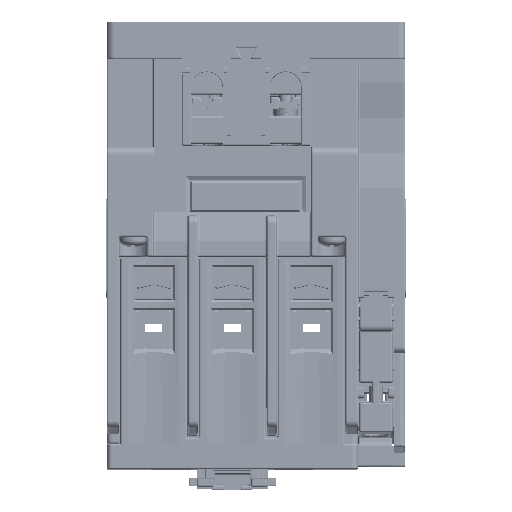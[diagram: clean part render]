
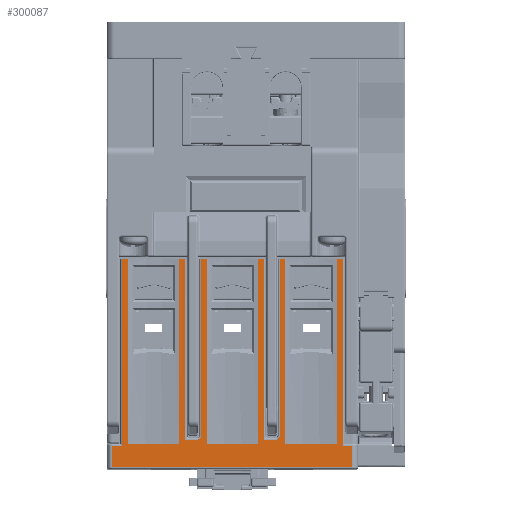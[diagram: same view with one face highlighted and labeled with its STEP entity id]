
A CAD part, top view. The second image highlights one B-rep face of the part: STEP entity #300087.
In plain terms, the highlighted planar face has unit normal (0, 0, 1).
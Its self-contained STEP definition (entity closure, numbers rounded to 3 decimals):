
#5550=DIRECTION('',(0.,-1.,0.));
#5551=VECTOR('',#5550,45.);
#5552=CARTESIAN_POINT('',(44.,58.7,-7.5));
#5553=LINE('',#5552,#5551);
#40371=CARTESIAN_POINT('',(23.,13.7,-7.5));
#40372=DIRECTION('',(0.,0.,1.));
#40373=DIRECTION('',(0.,-1.,0.));
#40374=AXIS2_PLACEMENT_3D('',#40371,#40372,#40373);
#40376=DIRECTION('',(1.,0.,0.));
#40377=VECTOR('',#40376,1.5);
#40378=CARTESIAN_POINT('',(24.,58.7,-7.5));
#40379=LINE('',#40378,#40377);
#40380=DIRECTION('',(0.,1.,0.));
#40381=VECTOR('',#40380,47.);
#40382=CARTESIAN_POINT('',(25.5,11.7,-7.5));
#40383=LINE('',#40382,#40381);
#40384=DIRECTION('',(-1.,0.,0.));
#40385=VECTOR('',#40384,13.);
#40386=CARTESIAN_POINT('',(38.5,11.7,-7.5));
#40387=LINE('',#40386,#40385);
#40388=DIRECTION('',(0.,1.,0.));
#40389=VECTOR('',#40388,47.);
#40390=CARTESIAN_POINT('',(38.5,11.7,-7.5));
#40391=LINE('',#40390,#40389);
#40392=DIRECTION('',(1.,0.,0.));
#40393=VECTOR('',#40392,1.5);
#40394=CARTESIAN_POINT('',(38.5,58.7,-7.5));
#40395=LINE('',#40394,#40393);
#40396=DIRECTION('',(-1.,0.,0.));
#40397=VECTOR('',#40396,3.);
#40398=CARTESIAN_POINT('',(43.,12.7,-7.5));
#40399=LINE('',#40398,#40397);
#40400=CARTESIAN_POINT('',(43.,13.7,-7.5));
#40401=DIRECTION('',(0.,0.,1.));
#40402=DIRECTION('',(0.,-1.,0.));
#40403=AXIS2_PLACEMENT_3D('',#40400,#40401,#40402);
#40405=DIRECTION('',(1.,0.,0.));
#40406=VECTOR('',#40405,1.5);
#40407=CARTESIAN_POINT('',(44.,58.7,-7.5));
#40408=LINE('',#40407,#40406);
#40409=DIRECTION('',(0.,1.,0.));
#40410=VECTOR('',#40409,47.);
#40411=CARTESIAN_POINT('',(45.5,11.7,-7.5));
#40412=LINE('',#40411,#40410);
#40413=DIRECTION('',(-1.,0.,0.));
#40414=VECTOR('',#40413,13.);
#40415=CARTESIAN_POINT('',(58.5,11.7,-7.5));
#40416=LINE('',#40415,#40414);
#40417=DIRECTION('',(0.,1.,0.));
#40418=VECTOR('',#40417,47.);
#40419=CARTESIAN_POINT('',(58.5,11.7,-7.5));
#40420=LINE('',#40419,#40418);
#40421=DIRECTION('',(1.,0.,0.));
#40422=VECTOR('',#40421,1.5);
#40423=CARTESIAN_POINT('',(58.5,58.7,-7.5));
#40424=LINE('',#40423,#40422);
#40425=DIRECTION('',(-1.,0.,0.));
#40426=VECTOR('',#40425,2.5);
#40427=CARTESIAN_POINT('',(62.5,11.2,-7.5));
#40428=LINE('',#40427,#40426);
#40429=DIRECTION('',(0.,1.,0.));
#40430=VECTOR('',#40429,5.5);
#40431=CARTESIAN_POINT('',(62.5,5.7,-7.5));
#40432=LINE('',#40431,#40430);
#40433=DIRECTION('',(1.,0.,0.));
#40434=VECTOR('',#40433,61.);
#40435=CARTESIAN_POINT('',(1.5,5.7,-7.5));
#40436=LINE('',#40435,#40434);
#40437=DIRECTION('',(0.,-1.,0.));
#40438=VECTOR('',#40437,5.5);
#40439=CARTESIAN_POINT('',(1.5,11.2,-7.5));
#40440=LINE('',#40439,#40438);
#40441=DIRECTION('',(-1.,0.,0.));
#40442=VECTOR('',#40441,2.5);
#40443=CARTESIAN_POINT('',(4.,11.2,-7.5));
#40444=LINE('',#40443,#40442);
#40445=DIRECTION('',(1.,0.,0.));
#40446=VECTOR('',#40445,1.5);
#40447=CARTESIAN_POINT('',(4.,58.7,-7.5));
#40448=LINE('',#40447,#40446);
#40449=DIRECTION('',(0.,1.,0.));
#40450=VECTOR('',#40449,47.);
#40451=CARTESIAN_POINT('',(5.5,11.7,-7.5));
#40452=LINE('',#40451,#40450);
#40453=DIRECTION('',(-1.,0.,0.));
#40454=VECTOR('',#40453,13.);
#40455=CARTESIAN_POINT('',(18.5,11.7,-7.5));
#40456=LINE('',#40455,#40454);
#40457=DIRECTION('',(0.,1.,0.));
#40458=VECTOR('',#40457,47.);
#40459=CARTESIAN_POINT('',(18.5,11.7,-7.5));
#40460=LINE('',#40459,#40458);
#40461=DIRECTION('',(1.,0.,0.));
#40462=VECTOR('',#40461,1.5);
#40463=CARTESIAN_POINT('',(18.5,58.7,-7.5));
#40464=LINE('',#40463,#40462);
#40465=DIRECTION('',(-1.,0.,0.));
#40466=VECTOR('',#40465,3.);
#40467=CARTESIAN_POINT('',(23.,12.7,-7.5));
#40468=LINE('',#40467,#40466);
#40484=DIRECTION('',(0.,-1.,0.));
#40485=VECTOR('',#40484,45.);
#40486=CARTESIAN_POINT('',(24.,58.7,-7.5));
#40487=LINE('',#40486,#40485);
#40623=DIRECTION('',(0.,1.,0.));
#40624=VECTOR('',#40623,46.);
#40625=CARTESIAN_POINT('',(20.,12.7,-7.5));
#40626=LINE('',#40625,#40624);
#77146=DIRECTION('',(0.,1.,0.));
#77147=VECTOR('',#77146,47.5);
#77148=CARTESIAN_POINT('',(60.,11.2,-7.5));
#77149=LINE('',#77148,#77147);
#79803=DIRECTION('',(0.,1.,0.));
#79804=VECTOR('',#79803,46.);
#79805=CARTESIAN_POINT('',(40.,12.7,-7.5));
#79806=LINE('',#79805,#79804);
#90277=DIRECTION('',(0.,-1.,0.));
#90278=VECTOR('',#90277,47.5);
#90279=CARTESIAN_POINT('',(4.,58.7,-7.5));
#90280=LINE('',#90279,#90278);
#208292=CARTESIAN_POINT('',(58.5,11.7,-7.5));
#208293=CARTESIAN_POINT('',(45.5,11.7,-7.5));
#208294=VERTEX_POINT('',#208292);
#208295=VERTEX_POINT('',#208293);
#208296=CARTESIAN_POINT('',(38.5,11.7,-7.5));
#208297=CARTESIAN_POINT('',(25.5,11.7,-7.5));
#208298=VERTEX_POINT('',#208296);
#208299=VERTEX_POINT('',#208297);
#208300=CARTESIAN_POINT('',(18.5,11.7,-7.5));
#208301=CARTESIAN_POINT('',(5.5,11.7,-7.5));
#208302=VERTEX_POINT('',#208300);
#208303=VERTEX_POINT('',#208301);
#208644=CARTESIAN_POINT('',(4.,58.7,-7.5));
#208645=CARTESIAN_POINT('',(5.5,58.7,-7.5));
#208646=VERTEX_POINT('',#208644);
#208647=VERTEX_POINT('',#208645);
#208648=CARTESIAN_POINT('',(18.5,58.7,-7.5));
#208649=CARTESIAN_POINT('',(20.,58.7,-7.5));
#208650=VERTEX_POINT('',#208648);
#208651=VERTEX_POINT('',#208649);
#208652=CARTESIAN_POINT('',(24.,58.7,-7.5));
#208653=CARTESIAN_POINT('',(25.5,58.7,-7.5));
#208654=VERTEX_POINT('',#208652);
#208655=VERTEX_POINT('',#208653);
#208656=CARTESIAN_POINT('',(38.5,58.7,-7.5));
#208657=CARTESIAN_POINT('',(40.,58.7,-7.5));
#208658=VERTEX_POINT('',#208656);
#208659=VERTEX_POINT('',#208657);
#208660=CARTESIAN_POINT('',(44.,58.7,-7.5));
#208661=CARTESIAN_POINT('',(45.5,58.7,-7.5));
#208662=VERTEX_POINT('',#208660);
#208663=VERTEX_POINT('',#208661);
#208664=CARTESIAN_POINT('',(58.5,58.7,-7.5));
#208665=CARTESIAN_POINT('',(60.,58.7,-7.5));
#208666=VERTEX_POINT('',#208664);
#208667=VERTEX_POINT('',#208665);
#209024=CARTESIAN_POINT('',(1.5,5.7,-7.5));
#209026=VERTEX_POINT('',#209024);
#209038=CARTESIAN_POINT('',(62.5,5.7,-7.5));
#209039=VERTEX_POINT('',#209038);
#209308=CARTESIAN_POINT('',(62.5,11.2,-7.5));
#209309=CARTESIAN_POINT('',(60.,11.2,-7.5));
#209310=VERTEX_POINT('',#209308);
#209311=VERTEX_POINT('',#209309);
#209314=CARTESIAN_POINT('',(1.5,11.2,-7.5));
#209316=VERTEX_POINT('',#209314);
#209318=CARTESIAN_POINT('',(4.,11.2,-7.5));
#209319=VERTEX_POINT('',#209318);
#209682=CARTESIAN_POINT('',(43.,12.7,-7.5));
#209683=CARTESIAN_POINT('',(40.,12.7,-7.5));
#209684=VERTEX_POINT('',#209682);
#209685=VERTEX_POINT('',#209683);
#209686=CARTESIAN_POINT('',(44.,13.7,-7.5));
#209687=VERTEX_POINT('',#209686);
#209707=CARTESIAN_POINT('',(23.,12.7,-7.5));
#209708=CARTESIAN_POINT('',(20.,12.7,-7.5));
#209709=VERTEX_POINT('',#209707);
#209710=VERTEX_POINT('',#209708);
#209717=CARTESIAN_POINT('',(24.,13.7,-7.5));
#209718=VERTEX_POINT('',#209717);
#300028=CARTESIAN_POINT('',(32.,59.2,-7.5));
#300029=DIRECTION('',(0.,0.,1.));
#300030=DIRECTION('',(-1.,0.,0.));
#300031=AXIS2_PLACEMENT_3D('',#300028,#300029,#300030);
#300032=PLANE('',#300031);
#300034=ORIENTED_EDGE('',*,*,#300033,.T.);
#300036=ORIENTED_EDGE('',*,*,#300035,.F.);
#300038=ORIENTED_EDGE('',*,*,#300037,.T.);
#300040=ORIENTED_EDGE('',*,*,#300039,.F.);
#300042=ORIENTED_EDGE('',*,*,#300041,.F.);
#300044=ORIENTED_EDGE('',*,*,#300043,.T.);
#300046=ORIENTED_EDGE('',*,*,#300045,.T.);
#300048=ORIENTED_EDGE('',*,*,#300047,.F.);
#300050=ORIENTED_EDGE('',*,*,#300049,.F.);
#300051=ORIENTED_EDGE('',*,*,#233811,.T.);
#300052=ORIENTED_EDGE('',*,*,#233840,.F.);
#300053=ORIENTED_EDGE('',*,*,#233875,.T.);
#300055=ORIENTED_EDGE('',*,*,#300054,.F.);
#300057=ORIENTED_EDGE('',*,*,#300056,.F.);
#300059=ORIENTED_EDGE('',*,*,#300058,.T.);
#300060=ORIENTED_EDGE('',*,*,#233871,.T.);
#300062=ORIENTED_EDGE('',*,*,#300061,.F.);
#300064=ORIENTED_EDGE('',*,*,#300063,.F.);
#300066=ORIENTED_EDGE('',*,*,#300065,.F.);
#300068=ORIENTED_EDGE('',*,*,#300067,.F.);
#300070=ORIENTED_EDGE('',*,*,#300069,.F.);
#300072=ORIENTED_EDGE('',*,*,#300071,.F.);
#300074=ORIENTED_EDGE('',*,*,#300073,.F.);
#300075=ORIENTED_EDGE('',*,*,#299610,.T.);
#300076=ORIENTED_EDGE('',*,*,#299995,.F.);
#300078=ORIENTED_EDGE('',*,*,#300077,.F.);
#300079=ORIENTED_EDGE('',*,*,#299991,.T.);
#300080=ORIENTED_EDGE('',*,*,#299606,.T.);
#300082=ORIENTED_EDGE('',*,*,#300081,.F.);
#300084=ORIENTED_EDGE('',*,*,#300083,.F.);
#300085=EDGE_LOOP('',(#300034,#300036,#300038,#300040,#300042,#300044,#300046,
#300048,#300050,#300051,#300052,#300053,#300055,#300057,#300059,#300060,#300062,
#300064,#300066,#300068,#300070,#300072,#300074,#300075,#300076,#300078,#300079,
#300080,#300082,#300084));
#300086=FACE_OUTER_BOUND('',#300085,.F.);
#300087=ADVANCED_FACE('',(#300086),#300032,.T.);
#40375=CIRCLE('',#40374,1.);
#40404=CIRCLE('',#40403,1.);
#233811=EDGE_CURVE('',#209684,#209687,#40404,.T.);
#233840=EDGE_CURVE('',#208662,#209687,#5553,.T.);
#233871=EDGE_CURVE('',#208666,#208667,#40424,.T.);
#233875=EDGE_CURVE('',#208662,#208663,#40408,.T.);
#299606=EDGE_CURVE('',#208650,#208651,#40464,.T.);
#299610=EDGE_CURVE('',#208646,#208647,#40448,.T.);
#299991=EDGE_CURVE('',#208302,#208650,#40460,.T.);
#299995=EDGE_CURVE('',#208303,#208647,#40452,.T.);
#300033=EDGE_CURVE('',#209709,#209718,#40375,.T.);
#300035=EDGE_CURVE('',#208654,#209718,#40487,.T.);
#300037=EDGE_CURVE('',#208654,#208655,#40379,.T.);
#300039=EDGE_CURVE('',#208299,#208655,#40383,.T.);
#300041=EDGE_CURVE('',#208298,#208299,#40387,.T.);
#300043=EDGE_CURVE('',#208298,#208658,#40391,.T.);
#300045=EDGE_CURVE('',#208658,#208659,#40395,.T.);
#300047=EDGE_CURVE('',#209685,#208659,#79806,.T.);
#300049=EDGE_CURVE('',#209684,#209685,#40399,.T.);
#300054=EDGE_CURVE('',#208295,#208663,#40412,.T.);
#300056=EDGE_CURVE('',#208294,#208295,#40416,.T.);
#300058=EDGE_CURVE('',#208294,#208666,#40420,.T.);
#300061=EDGE_CURVE('',#209311,#208667,#77149,.T.);
#300063=EDGE_CURVE('',#209310,#209311,#40428,.T.);
#300065=EDGE_CURVE('',#209039,#209310,#40432,.T.);
#300067=EDGE_CURVE('',#209026,#209039,#40436,.T.);
#300069=EDGE_CURVE('',#209316,#209026,#40440,.T.);
#300071=EDGE_CURVE('',#209319,#209316,#40444,.T.);
#300073=EDGE_CURVE('',#208646,#209319,#90280,.T.);
#300077=EDGE_CURVE('',#208302,#208303,#40456,.T.);
#300081=EDGE_CURVE('',#209710,#208651,#40626,.T.);
#300083=EDGE_CURVE('',#209709,#209710,#40468,.T.);
